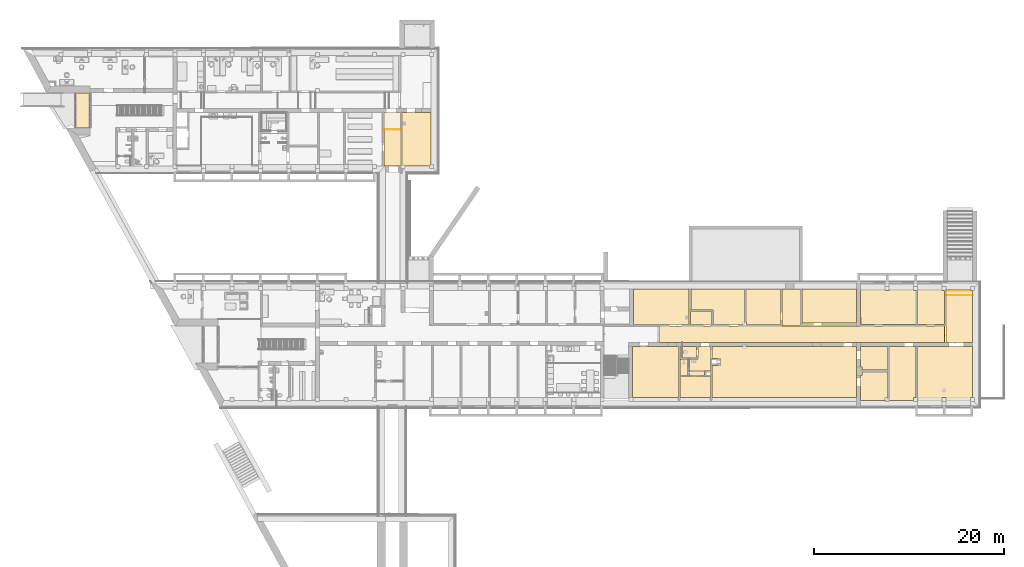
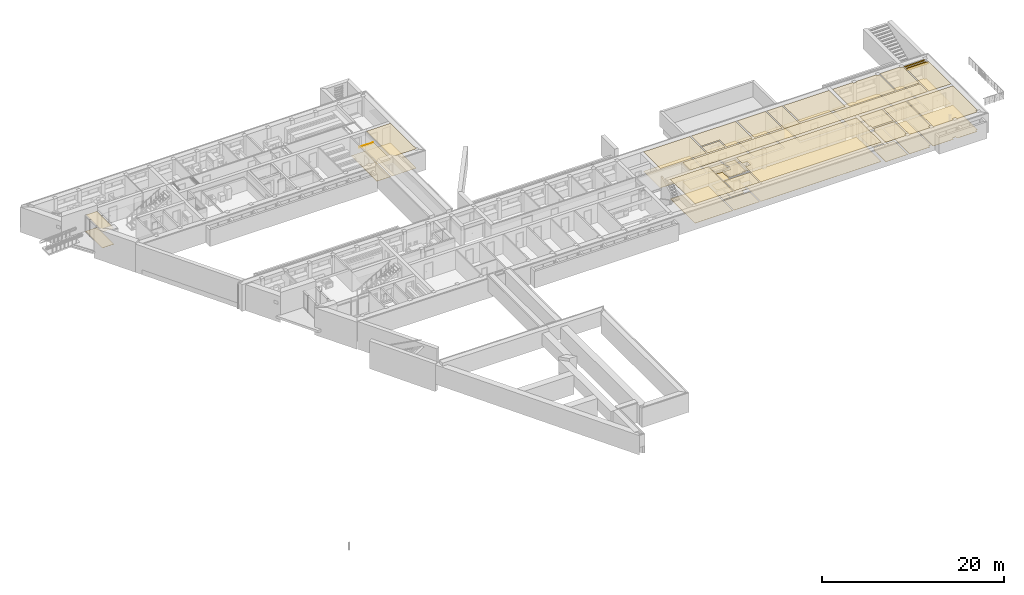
# One storey, part 70 of 127: 50 coverings.
"""IFC2X3 building model written with IfcOpenShell, lengths in millimetres."""

import ifcopenshell
import ifcopenshell.guid

model = None  # the IFC model being written
_history = None  # IfcOwnerHistory: only IFC2X3 demands one
_inside = {}  # id of a spatial element -> (the spatial element, [elements in it])
_under = {}  # id of a project, library or spatial element -> (it, [spatial elements below it])
_declared = {}  # id of a project -> (the project, [libraries it declares])
_typed = {}  # id of a type object -> (the type object, [elements of that type])
_made_of = {}  # id of a material, layer set ... -> (it, [elements and type objects made of it])


def new_model(schema):
    """Start an empty IFC model of exactly this schema.

    Asked for "IFC4X3", IfcOpenShell would pick the latest addendum, in which some entities
    have other attributes; the version numbers below select the first issue.
    IFC2X3 requires an IfcOwnerHistory on every rooted entity: one is made here for all.
    """
    global model, _history
    if schema == "IFC4X3":
        model = ifcopenshell.file(schema_version=(4, 3, 0, 0))
    else:
        model = ifcopenshell.file(schema=schema)
    _inside.clear()
    _under.clear()
    _declared.clear()
    _typed.clear()
    _made_of.clear()
    _history = None
    if model.schema == "IFC2X3":
        org = make("IfcOrganization", Name="unknown")
        user = make(
            "IfcPersonAndOrganization",
            ThePerson=make("IfcPerson", FamilyName="unknown"),
            TheOrganization=org,
        )
        app = make(
            "IfcApplication",
            ApplicationDeveloper=org,
            Version="unknown",
            ApplicationFullName="unknown",
            ApplicationIdentifier="unknown",
        )
        _history = make(
            "IfcOwnerHistory",
            OwningUser=user,
            OwningApplication=app,
            ChangeAction="ADDED",
            CreationDate=0,
        )
    return model


def make(cls, **values):
    """One entity of the class cls with the attributes given. An attribute that is None is left unset."""
    return model.create_entity(
        cls, **{name: value for name, value in values.items() if value is not None}
    )


def entity(cls, *values):
    """Any entity or typed value of the class cls, its attributes in the order of the schema. None: left unset."""
    e = model.create_entity(cls)
    for i, value in enumerate(values):
        if value is not None:
            e[i] = value
    return e


def rooted(cls, **values):
    """An entity with a GlobalId (a new one), such as an element, a storey or a relation."""
    return make(cls, GlobalId=ifcopenshell.guid.new(), OwnerHistory=_history, **values)


def si_unit(unit_type, name, prefix=None):
    """IfcSIUnit, for example si_unit("LENGTHUNIT", "METRE", prefix="MILLI")."""
    return make("IfcSIUnit", UnitType=unit_type, Prefix=prefix, Name=name)


def converted_unit(unit_type, name, factor, base, dimensions=None, offset=None):
    """IfcConversionBasedUnit, such as the inch: factor (a typed value) times the base unit."""
    return make(
        "IfcConversionBasedUnit"
        if offset is None
        else "IfcConversionBasedUnitWithOffset",
        ConversionOffset=offset,
        Dimensions=None
        if dimensions is None
        else entity("IfcDimensionalExponents", *dimensions),
        UnitType=unit_type,
        Name=name,
        ConversionFactor=make(
            "IfcMeasureWithUnit", ValueComponent=factor, UnitComponent=base
        ),
    )


def derived_unit(unit_type, elements):
    """IfcDerivedUnit: a product of units, each with its exponent."""
    return make(
        "IfcDerivedUnit",
        Elements=[
            make("IfcDerivedUnitElement", Unit=unit, Exponent=power)
            for unit, power in elements
        ],
        UnitType=unit_type,
    )


def money_unit(currency):
    """IfcMonetaryUnit."""
    return make("IfcMonetaryUnit", Currency=currency)


def assignment(units):
    """IfcUnitAssignment: the units of a project."""
    return None if units is None else make("IfcUnitAssignment", Units=units)


def point(xyz):
    """IfcCartesianPoint."""
    return None if xyz is None else make("IfcCartesianPoint", Coordinates=xyz)


def direction(xyz):
    """IfcDirection."""
    return None if xyz is None else make("IfcDirection", DirectionRatios=xyz)


def frame(location, z_axis=None, x_axis=None):
    """IfcAxis2Placement3D, a coordinate frame: its origin and axes. An axis left out is left unset."""
    return make(
        "IfcAxis2Placement3D",
        Location=point(location),
        Axis=direction(z_axis),
        RefDirection=direction(x_axis),
    )


def origin_with_axes():
    """The frame at (0, 0, 0) with the z axis (0, 0, 1) and the x axis (1, 0, 0) written out."""
    return frame((0.0, 0.0, 0.0), z_axis=(0.0, 0.0, 1.0), x_axis=(1.0, 0.0, 0.0))


def place(relative_to, where):
    """IfcLocalPlacement: puts the frame where relative to a parent placement (None: the world)."""
    return make(
        "IfcLocalPlacement", PlacementRelTo=relative_to, RelativePlacement=where
    )


def context(
    kind, dimensions, precision=None, world=None, true_north=None, identifier=None
):
    """IfcGeometricRepresentationContext, for example the 3D "Model" context."""
    return make(
        "IfcGeometricRepresentationContext",
        ContextIdentifier=identifier,
        ContextType=kind,
        CoordinateSpaceDimension=dimensions,
        Precision=precision,
        WorldCoordinateSystem=world,
        TrueNorth=true_north,
    )


def subcontext(parent, identifier, kind, view, scale=None):
    """IfcGeometricRepresentationSubContext, for example "Body" below "Model"."""
    return make(
        "IfcGeometricRepresentationSubContext",
        ContextIdentifier=identifier,
        ContextType=kind,
        ParentContext=parent,
        TargetScale=scale,
        TargetView=view,
    )


def project(units=None, contexts=None):
    """IfcProject with its units and contexts."""
    return rooted(
        "IfcProject",
        Name="project",
        RepresentationContexts=contexts,
        UnitsInContext=assignment(units),
    )


def spatial(cls, under=None, at=None, **own):
    """A site, building, storey or space (cls), placed at a placement, below another one or the project."""
    s = rooted(cls, ObjectPlacement=at, **own)
    if under is not None:
        _under.setdefault(under.id(), (under, []))[1].append(s)
    return s


def polyline(points):
    """IfcPolyline through the points."""
    return make("IfcPolyline", Points=[point(p) for p in points])


def outline(outer, holes=None, kind="AREA"):
    """IfcArbitraryClosedProfileDef: a profile drawn as a closed curve; with holes, ...WithVoids."""
    if holes is None:
        return make("IfcArbitraryClosedProfileDef", ProfileType=kind, OuterCurve=outer)
    return make(
        "IfcArbitraryProfileDefWithVoids",
        ProfileType=kind,
        OuterCurve=outer,
        InnerCurves=holes,
    )


def extrude(swept, where, along, depth):
    """IfcExtrudedAreaSolid: the profile swept, set in the frame where, extruded along a direction by depth."""
    return make(
        "IfcExtrudedAreaSolid",
        SweptArea=swept,
        Position=where,
        ExtrudedDirection=direction(along),
        Depth=depth,
    )


def shape(context_of_items, identifier, shape_type, items):
    """IfcShapeRepresentation: the items that make up one representation, for example the "Body"."""
    return make(
        "IfcShapeRepresentation",
        ContextOfItems=context_of_items,
        RepresentationIdentifier=identifier,
        RepresentationType=shape_type,
        Items=items,
    )


def material(Name=None, Category=None):
    """IfcMaterial."""
    return make("IfcMaterial", Name=Name, Category=Category)


def made_of(thing, what):
    """Note that an element or type object is made of a material, layer set ...; save() writes the relation."""
    if what is not None:
        _made_of.setdefault(what.id(), (what, []))[1].append(thing)
    return thing


def type_object(cls, material=None, **own):
    """A type object (cls), such as IfcWallType, which elements share."""
    return made_of(rooted(cls, **own), material)


def element(
    cls,
    number,
    at=None,
    inside=None,
    cuts=None,
    type_object=None,
    material=None,
    context=None,
    identifier="Body",
    shape_type=None,
    held_by="IfcProductDefinitionShape",
    body=None,
    shapes=None,
    **own,
):
    """One element of the class cls, such as IfcWall. Its Tag is "e" and its number.

    at: its placement. inside: the storey or other place that contains it. cuts: it is an
    opening in that element (IfcRelVoidsElement). A single representation is given by context,
    identifier, shape_type and body (its items); several are given by shapes. held_by: the class
    of the entity that holds the representations. save() writes the other relations.
    """
    e = rooted(cls, Tag="e%d" % number, ObjectPlacement=at, **own)
    if body is not None:
        shapes = [shape(context, identifier, shape_type, body)]
    if shapes is not None:
        e.Representation = make(held_by, Representations=shapes)
    if inside is not None:
        _inside.setdefault(inside.id(), (inside, []))[1].append(e)
    if cuts is not None:
        rooted(
            "IfcRelVoidsElement", RelatingBuildingElement=cuts, RelatedOpeningElement=e
        )
    if type_object is not None:
        _typed.setdefault(type_object.id(), (type_object, []))[1].append(e)
    return made_of(e, material)


def aggregate(whole, parts):
    """IfcRelAggregates: a whole, such as a stair, and the parts it consists of."""
    return rooted("IfcRelAggregates", RelatingObject=whole, RelatedObjects=parts)


def save(model, path):
    """Write the relations noted so far, then the file.

    IfcRelAggregates (storeys below a building ...), IfcRelContainedInSpatialStructure (elements
    in a storey), IfcRelDefinesByType, IfcRelAssociatesMaterial and IfcRelDeclares: one each for
    every whole, place, type object, material and project.
    """
    for whole, parts in _under.values():
        aggregate(whole, parts)
    for where, things in _inside.values():
        rooted(
            "IfcRelContainedInSpatialStructure",
            RelatedElements=things,
            RelatingStructure=where,
        )
    for kind, things in _typed.values():
        rooted("IfcRelDefinesByType", RelatedObjects=things, RelatingType=kind)
    for what, things in _made_of.values():
        rooted("IfcRelAssociatesMaterial", RelatedObjects=things, RelatingMaterial=what)
    for by, libraries in _declared.values():
        rooted("IfcRelDeclares", RelatingContext=by, RelatedDefinitions=libraries)
    model.write(path)


model = new_model("IFC2X3")

# Units and contexts
model_context = context("Model", 3, precision=1e-05, world=origin_with_axes(), true_north=direction((0.0, 1.0)))
body_context = subcontext(model_context, "Body", "Model", "MODEL_VIEW")
ifc_project = project(units=[si_unit("LENGTHUNIT", "METRE", prefix="MILLI"), si_unit("AREAUNIT", "SQUARE_METRE"), si_unit("VOLUMEUNIT", "CUBIC_METRE"), converted_unit("PLANEANGLEUNIT", "DEGREE", entity("IfcPlaneAngleMeasure", 0.0174532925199), si_unit("PLANEANGLEUNIT", "RADIAN"), dimensions=[0, 0, 0, 0, 0, 0, 0]), si_unit("SOLIDANGLEUNIT", "STERADIAN"), money_unit("EUR"), converted_unit("TIMEUNIT", "Year", entity("IfcTimeMeasure", 31556926.0), si_unit("TIMEUNIT", "SECOND"), dimensions=[0, 0, 1, 0, 0, 0, 0]), si_unit("MASSUNIT", "GRAM", prefix="KILO"), si_unit("THERMODYNAMICTEMPERATUREUNIT", "DEGREE_CELSIUS"), si_unit("LUMINOUSINTENSITYUNIT", "LUMEN"), si_unit("ENERGYUNIT", "JOULE", prefix="MEGA"), derived_unit("THERMALCONDUCTANCEUNIT", [(si_unit("POWERUNIT", "WATT"), 1), (si_unit("LENGTHUNIT", "METRE"), -1), (si_unit("THERMODYNAMICTEMPERATUREUNIT", "KELVIN"), -1)]), derived_unit("SPECIFICHEATCAPACITYUNIT", [(si_unit("ENERGYUNIT", "JOULE"), 1), (si_unit("MASSUNIT", "GRAM", prefix="KILO"), -1), (si_unit("THERMODYNAMICTEMPERATUREUNIT", "KELVIN"), -1)]), derived_unit("MASSDENSITYUNIT", [(si_unit("MASSUNIT", "GRAM", prefix="KILO"), 1), (si_unit("VOLUMEUNIT", "CUBIC_METRE"), -1)])], contexts=[model_context])

# Site, building, storey
site_placement = place(None, origin_with_axes())
site = spatial("IfcSite", under=ifc_project, at=site_placement, Name="Site", CompositionType="ELEMENT")
building_placement = place(site_placement, origin_with_axes())
building = spatial("IfcBuilding", under=site, at=building_placement, Name="Building", CompositionType="ELEMENT")
storey_placement = place(building_placement, origin_with_axes())
storey = spatial("IfcBuildingStorey", under=building, at=storey_placement, Name="1 KORRUS", CompositionType="ELEMENT", Elevation=0.0)

# Coverings
ifc_material_1 = material(Name="Värv")
covering_type_1 = type_object("IfcCoveringType", Name="L-3", PredefinedType="CLADDING")
covering_1_placement = place(storey_placement, frame((79851.5572649, 46606.3367071, 2600.0), z_axis=(0.0, 0.0, 1.0), x_axis=(1.0, 0.0, 0.0)))
element("IfcCovering", 1, at=covering_1_placement, inside=storey, type_object=covering_type_1, material=ifc_material_1, Name="Konstruktiivne lagi kaetud tolmutõkkega ja värvitud", PredefinedType="CLADDING", context=body_context, shape_type="SweptSolid", body=[
    extrude(outline(polyline([(0.0, 0.0), (-1.33153231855, -3885.11026317), (1953.37580002, -3885.11026317), (1953.34216436, 0.0), (0.0, 0.0)])), frame((0.0, 0.0, -1.0), z_axis=(0.0, 0.0, 1.0), x_axis=(1.0, 0.0, 0.0)), (0.0, 0.0, 1.0), 1.0),
])
covering_2_placement = place(storey_placement, frame((66953.8474773, 41003.0649281, 2600.0), z_axis=(0.0, 0.0, 1.0), x_axis=(1.0, 0.0, 0.0)))
element("IfcCovering", 2, at=covering_2_placement, inside=storey, type_object=covering_type_1, material=ifc_material_1, Name="Konstruktiivne lagi kaetud tolmutõkkega ja värvitud", PredefinedType="CLADDING", context=body_context, shape_type="SweptSolid", body=[
    extrude(outline(polyline([(0.0, 0.0), (30053.5378237, 0.0), (30053.5378237, 1718.1615163), (12897.709783, 1718.16151583), (12897.709783, 1703.44713842), (0.0, 1703.44713889), (0.0, 0.0)])), frame((0.0, 0.0, -1.0), z_axis=(0.0, 0.0, 1.0), x_axis=(1.0, 0.0, 0.0)), (0.0, 0.0, 1.0), 1.0),
])
covering_3_placement = place(storey_placement, frame((97157.3853009, 41003.0649281, 2600.0), z_axis=(0.0, 0.0, 1.0), x_axis=(1.0, 0.0, 0.0)))
element("IfcCovering", 3, at=covering_3_placement, inside=storey, type_object=covering_type_1, material=ifc_material_1, Name="Konstruktiivne lagi lauspahtel, värvitud", PredefinedType="CLADDING", context=body_context, shape_type="SweptSolid", body=[
    extrude(outline(polyline([(0.0, 0.0), (2789.96748376, 0.0), (2789.96748376, 4934.54919473), (0.0, 4934.54919473), (0.0, 0.0)])), frame((0.0, 0.0, -1.0), z_axis=(0.0, 0.0, 1.0), x_axis=(1.0, 0.0, 0.0)), (0.0, 0.0, 1.0), 1.0),
])
covering_4_placement = place(storey_placement, frame((72477.5755855, 35181.6514797, 2600.0), z_axis=(0.0, 0.0, 1.0), x_axis=(1.0, 0.0, 0.0)))
element("IfcCovering", 4, at=covering_4_placement, inside=storey, type_object=covering_type_1, material=ifc_material_1, Name="Konstruktiivne lagi lauspahtel, värvitud", PredefinedType="CLADDING", context=body_context, shape_type="SweptSolid", body=[
    extrude(outline(polyline([(0.0, 0.0), (15260.6712947, 1.03918294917), (15256.8423619, 2356.81436682), (15259.8446509, 2357.16060745), (15257.2024337, 5398.49640011), (0.0, 5398.49640011), (0.0, 4120.08583852), (679.777099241, 4120.08583852), (679.777099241, 3400.08581245), (0.0, 3400.08581245), (0.0, 0.0)])), frame((0.0, 0.0, -1.0), z_axis=(0.0, 0.0, 1.0), x_axis=(1.0, 0.0, 0.0)), (0.0, 0.0, 1.0), 1.0),
])
covering_5_placement = place(storey_placement, frame((94157.1430771, 40583.0649281, 2600.0), z_axis=(0.0, 0.0, 1.0), x_axis=(1.0, 0.0, 0.0)))
element("IfcCovering", 5, at=covering_5_placement, inside=storey, type_object=covering_type_1, material=ifc_material_1, Name="Konstruktiivne lagi lauspahtel, värvitud", PredefinedType="CLADDING", context=body_context, shape_type="SweptSolid", body=[
    extrude(outline(polyline([(0.0, 0.0), (0.0, -5690.96849499), (2579.99999402, -5690.79281372), (2580.20970755, -5401.4406583), (3000.20970755, -5401.4406583), (3000.70847824, -5690.7641662), (5580.70847226, -5690.58848493), (5580.20970755, -5401.4406583), (5781.50498031, -5401.22264278), (5781.04458417, 0.0), (0.0, 0.0)])), frame((0.0, 0.0, -1.0), z_axis=(0.0, 0.0, 1.0), x_axis=(1.0, 0.0, 0.0)), (0.0, 0.0, 1.0), 1.0),
])
covering_6_placement = place(storey_placement, frame((96737.3527847, 46471.7424563, 2600.0), z_axis=(0.0, 0.0, 1.0), x_axis=(1.0, 0.0, 0.0)))
element("IfcCovering", 6, at=covering_6_placement, inside=storey, type_object=covering_type_1, material=ifc_material_1, Name="Konstruktiivne lagi lauspahtel, värvitud", PredefinedType="CLADDING", context=body_context, shape_type="SweptSolid", body=[
    extrude(outline(polyline([(0.0, 0.0), (0.125872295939, 130.821504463), (-2587.67677211, 131.465226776), (-2583.6054976, -3600.51601235), (270.03249553, -3600.51601235), (270.05238304, -0.019874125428), (0.0, 0.0)])), frame((0.0, 0.0, -1.0), z_axis=(0.0, 0.0, 1.0), x_axis=(1.0, 0.0, 0.0)), (0.0, 0.0, 1.0), 1.0),
])
covering_7_placement = place(storey_placement, frame((94012.8664465, 46471.0851707, 2600.0), z_axis=(0.0, 0.0, 1.0), x_axis=(1.0, 0.0, 0.0)))
element("IfcCovering", 7, at=covering_7_placement, inside=storey, type_object=covering_type_1, material=ifc_material_1, Name="Konstruktiivne lagi lauspahtel, värvitud", PredefinedType="CLADDING", context=body_context, shape_type="SweptSolid", body=[
    extrude(outline(polyline([(0.0, 0.0), (-262.467273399, 0.657285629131), (-260.097907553, 132.22448944), (-2840.09782773, 132.866270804), (-2842.4672734, 0.657285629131), (-3262.4672734, 0.657285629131), (-3260.31205932, 132.970800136), (-5852.3777353, 133.615572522), (-5847.83153481, -3599.85872672), (3.92714900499, -3599.85872672), (0.0, 0.0)])), frame((0.0, 0.0, -1.0), z_axis=(0.0, 0.0, 1.0), x_axis=(1.0, 0.0, 0.0)), (0.0, 0.0, 1.0), 1.0),
])
covering_type_2 = type_object("IfcCoveringType", Name="L-5", PredefinedType="CLADDING")
covering_8_placement = place(storey_placement, frame((88297.4202954, 37538.8122334, 2600.0), z_axis=(0.0, 0.0, 1.0), x_axis=(1.0, 0.0, 0.0)))
element("IfcCovering", 8, at=covering_8_placement, inside=storey, type_object=covering_type_2, material=ifc_material_1, Name="Konstruktiivne lagi kaetud tolmutõkkega ja värvitud", PredefinedType="CLADDING", context=body_context, shape_type="SweptSolid", body=[
    extrude(outline(polyline([(0.0, 0.0), (-143.00236282, 0.0), (-138.699929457, -2647.124254), (2442.16396742, -2646.9485139), (2439.93248925, -2357.18796361), (2659.93248925, -2357.18796361), (2659.93248752, 328.81048313), (0.0, 328.81048313), (0.0, 0.0)])), frame((0.0, 0.0, -1.0), z_axis=(0.0, 0.0, 1.0), x_axis=(1.0, 0.0, 0.0)), (0.0, 0.0, 1.0), 1.0),
])
covering_9_placement = place(storey_placement, frame((69117.372148, 35180.1739363, 2600.0), z_axis=(0.0, 0.0, 1.0), x_axis=(1.0, 0.0, 0.0)))
element("IfcCovering", 9, at=covering_9_placement, inside=storey, type_object=covering_type_2, material=ifc_material_1, Name="Konstruktiivne lagi kaetud tolmutõkkega ja värvitud", PredefinedType="CLADDING", context=body_context, shape_type="SweptSolid", body=[
    extrude(outline(polyline([(0.0, 0.0), (3210.20343751, 0.0), (3210.20343751, 2203.89098953), (0.0, 2203.89098953), (0.0, 0.0)])), frame((0.0, 0.0, -1.0), z_axis=(0.0, 0.0, 1.0), x_axis=(1.0, 0.0, 0.0)), (0.0, 0.0, 1.0), 1.0),
])
covering_10_placement = place(storey_placement, frame((64240.2205002, 42906.5010026, 2600.0), z_axis=(0.0, 0.0, 1.0), x_axis=(1.0, 0.0, 0.0)))
element("IfcCovering", 10, at=covering_10_placement, inside=storey, type_object=covering_type_2, material=ifc_material_1, Name="Konstruktiivne lagi kaetud tolmutõkkega ja värvitud", PredefinedType="CLADDING", context=body_context, shape_type="SweptSolid", body=[
    extrude(outline(polyline([(0.0, 0.0), (5842.86980913, 0.0), (5842.86980913, 3704.14673159), (0.0, 3704.14673159), (0.0, 0.0)])), frame((0.0, 0.0, -1.0), z_axis=(0.0, 0.0, 1.0), x_axis=(1.0, 0.0, 0.0)), (0.0, 0.0, 1.0), 1.0),
])
covering_11_placement = place(storey_placement, frame((39883.2475145, 65216.3690561, 2600.0), z_axis=(0.0, 0.0, 1.0), x_axis=(1.0, 0.0, 0.0)))
element("IfcCovering", 11, at=covering_11_placement, inside=storey, type_object=covering_type_2, material=ifc_material_1, Name="Konstruktiivne lagi kaetud tolmutõkkega ja värvitud", PredefinedType="CLADDING", context=body_context, shape_type="SweptSolid", body=[
    extrude(outline(polyline([(0.0, 0.0), (0.0, -5636.88866665), (3054.50870136, -5636.88866665), (3054.49123014, 0.0), (0.0, 0.0)])), frame((0.0, 0.0, -1.0), z_axis=(0.0, 0.0, 1.0), x_axis=(1.0, 0.0, 0.0)), (0.0, 0.0, 1.0), 1.0),
])
covering_12_placement = place(storey_placement, frame((68966.1761605, 40587.4975598, 2600.0), z_axis=(0.0, 0.0, 1.0), x_axis=(1.0, 0.0, 0.0)))
element("IfcCovering", 12, at=covering_12_placement, inside=storey, type_object=covering_type_2, material=ifc_material_1, Name="Konstruktiivne lagi kaetud tolmutõkkega ja värvitud", PredefinedType="CLADDING", context=body_context, shape_type="SweptSolid", body=[
    extrude(outline(polyline([(0.0, 0.0), (-4825.40647222, 0.0), (-4817.37331761, -5405.87387222), (1.19558049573, -5405.54574131), (0.0, 0.0)])), frame((0.0, 0.0, -1.0), z_axis=(0.0, 0.0, 1.0), x_axis=(1.0, 0.0, 0.0)), (0.0, 0.0, 1.0), 1.0),
])
covering_13_placement = place(storey_placement, frame((90957.3527847, 40583.0649281, 2600.0), z_axis=(0.0, 0.0, 1.0), x_axis=(1.0, 0.0, 0.0)))
element("IfcCovering", 13, at=covering_13_placement, inside=storey, type_object=covering_type_2, material=ifc_material_1, Name="Konstruktiivne lagi kaetud tolmutõkkega ja värvitud", PredefinedType="CLADDING", context=body_context, shape_type="SweptSolid", body=[
    extrude(outline(polyline([(0.0, 0.0), (-2802.57799426, 0.0), (-2799.93249786, -2172.54830272), (-2659.93249276, -2172.46303565), (-2659.93249276, -2515.44221156), (0.0, -2515.44221156), (0.0, 0.0)])), frame((0.0, 0.0, -1.0), z_axis=(0.0, 0.0, 1.0), x_axis=(1.0, 0.0, 0.0)), (0.0, 0.0, 1.0), 1.0),
])
covering_14_placement = place(storey_placement, frame((91157.3527847, 40583.0649281, 2600.0), z_axis=(0.0, 0.0, 1.0), x_axis=(1.0, 0.0, 0.0)))
element("IfcCovering", 14, at=covering_14_placement, inside=storey, type_object=covering_type_2, material=ifc_material_1, Name="Konstruktiivne lagi kaetud tolmutõkkega ja värvitud", PredefinedType="CLADDING", context=body_context, shape_type="SweptSolid", body=[
    extrude(outline(polyline([(0.0, 0.0), (0.0, -5690.9634268), (2579.60006631, -5690.9634268), (2579.99998296, -5401.44062542), (2850.00001306, -5403.540208), (2850.00001306, 0.616100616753), (0.0, 0.0)])), frame((0.0, 0.0, -1.0), z_axis=(0.0, 0.0, 1.0), x_axis=(1.0, 0.0, 0.0)), (0.0, 0.0, 1.0), 1.0),
])
covering_15_placement = place(storey_placement, frame((87727.441884, 46604.8052023, 2600.0), z_axis=(0.0, 0.0, 1.0), x_axis=(1.0, 0.0, 0.0)))
element("IfcCovering", 15, at=covering_15_placement, inside=storey, type_object=covering_type_2, material=ifc_material_1, Name="Konstruktiivne lagi kaetud tolmutõkkega ja värvitud", PredefinedType="CLADDING", context=body_context, shape_type="SweptSolid", body=[
    extrude(outline(polyline([(0.0, 0.0), (-5772.50879453, 1.43593701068), (-5772.50879453, -3583.57875831), (4.36367837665, -3583.57875831), (0.0, 0.0)])), frame((0.0, 0.0, -1.0), z_axis=(0.0, 0.0, 1.0), x_axis=(1.0, 0.0, 0.0)), (0.0, 0.0, 1.0), 1.0),
])
covering_16_placement = place(storey_placement, frame((76100.2206895, 43126.0014734, 2600.0), z_axis=(0.0, 0.0, 1.0), x_axis=(1.0, 0.0, 0.0)))
element("IfcCovering", 16, at=covering_16_placement, inside=storey, type_object=covering_type_2, material=ifc_material_1, Name="Konstruktiivne lagi kaetud tolmutõkkega ja värvitud", PredefinedType="CLADDING", context=body_context, shape_type="SweptSolid", body=[
    extrude(outline(polyline([(0.0, 0.0), (57.1320951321, -9.99716576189e-06), (57.1320813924, -219.489406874), (3599.99999388, -219.489406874), (3599.99999388, 3481.69605639), (0.0, 3481.69605639), (0.0, 0.0)])), frame((0.0, 0.0, -1.0), z_axis=(0.0, 0.0, 1.0), x_axis=(1.0, 0.0, 0.0)), (0.0, 0.0, 1.0), 1.0),
])
covering_17_placement = place(storey_placement, frame((70280.1781068, 46609.1453172, 2600.0), z_axis=(0.0, 0.0, 1.0), x_axis=(1.0, 0.0, 0.0)))
element("IfcCovering", 17, at=covering_17_placement, inside=storey, type_object=covering_type_2, material=ifc_material_1, Name="Konstruktiivne lagi kaetud tolmutõkkega ja värvitud", PredefinedType="CLADDING", context=body_context, shape_type="SweptSolid", body=[
    extrude(outline(polyline([(0.0, 0.0), (2.59124522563, -2216.53694603), (2313.44618441, -2213.72302221), (2313.44618441, -3702.63325069), (5620.04258275, -3702.63325069), (5620.04258275, -1.39804303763), (0.0, 0.0)])), frame((0.0, 0.0, -1.0), z_axis=(0.0, 0.0, 1.0), x_axis=(1.0, 0.0, 0.0)), (0.0, 0.0, 1.0), 1.0),
])
covering_18_placement = place(storey_placement, frame((70233.0903094, 42906.5120665, 2600.0), z_axis=(0.0, 0.0, 1.0), x_axis=(1.0, 0.0, 0.0)))
element("IfcCovering", 18, at=covering_18_placement, inside=storey, type_object=covering_type_2, material=ifc_material_1, Name="Konstruktiivne lagi kaetud tolmutõkkega ja värvitud", PredefinedType="CLADDING", context=body_context, shape_type="SweptSolid", body=[
    extrude(outline(polyline([(0.0, 0.0), (2210.53396077, 0.0), (2210.53396077, 1336.0357135), (0.0, 1336.0357135), (0.0, 0.0)])), frame((0.0, 0.0, -1.0), z_axis=(0.0, 0.0, 1.0), x_axis=(1.0, 0.0, 0.0)), (0.0, 0.0, 1.0), 1.0),
])
covering_19_placement = place(storey_placement, frame((5488.69931489, 63590.1449493, 2170.0), z_axis=(0.0, 0.0, 1.0), x_axis=(1.0, 0.0, 0.0)))
element("IfcCovering", 19, at=covering_19_placement, inside=storey, type_object=covering_type_2, material=ifc_material_1, Name="Konstruktiivne lagi kaetud tolmutõkkega ja värvitud", PredefinedType="CLADDING", context=body_context, shape_type="SweptSolid", body=[
    extrude(outline(polyline([(0.0, 0.0), (1459.07577476, 0.0), (1459.07577476, 3686.6080572), (0.0, 3686.6080572), (0.0, 0.0)])), frame((0.0, 0.0, -1.0), z_axis=(0.0, 0.0, 1.0), x_axis=(1.0, 0.0, 0.0)), (0.0, 0.0, 1.0), 1.0),
])
ifc_material_2 = material(Name="Betoon - Ol.Olev konstruktsioon")
covering_type_3 = type_object("IfcCoveringType", Name="P-3", PredefinedType="NOTDEFINED")
covering_20_placement = place(storey_placement, frame((70233.0903094, 42906.5120665, 0.0), z_axis=(0.0, 0.0, 1.0), x_axis=(1.0, 0.0, 0.0)))
element("IfcCovering", 20, at=covering_20_placement, inside=storey, type_object=covering_type_3, material=ifc_material_2, Name="Betoon - Ol.Olev konstruktsioon", PredefinedType="NOTDEFINED", context=body_context, shape_type="SweptSolid", body=[
    extrude(outline(polyline([(0.0, 0.0), (2210.53396077, 0.0), (2210.53396077, 1336.0357135), (0.0, 1336.0357135), (0.0, 0.0)])), frame((0.0, 0.0, -20.0), z_axis=(0.0, 0.0, 1.0), x_axis=(1.0, 0.0, 0.0)), (0.0, 0.0, 1.0), 20.0),
])
covering_21_placement = place(storey_placement, frame((90957.3527847, 40583.0649281, 0.0), z_axis=(0.0, 0.0, 1.0), x_axis=(1.0, 0.0, 0.0)))
element("IfcCovering", 21, at=covering_21_placement, inside=storey, type_object=covering_type_3, material=ifc_material_2, Name="Betoon - Ol.Olev konstruktsioon", PredefinedType="NOTDEFINED", context=body_context, shape_type="SweptSolid", body=[
    extrude(outline(polyline([(0.0, 0.0), (-2802.57799426, 0.0), (-2799.93249786, -2172.54830271), (-2659.93249276, -2172.46303565), (-2659.93249276, -2515.44221156), (0.0, -2515.44221156), (0.0, 0.0)])), frame((0.0, 0.0, -20.0), z_axis=(0.0, 0.0, 1.0), x_axis=(1.0, 0.0, 0.0)), (0.0, 0.0, 1.0), 20.0),
])
covering_22_placement = place(storey_placement, frame((88154.4179326, 37538.8122334, 0.0), z_axis=(0.0, 0.0, 1.0), x_axis=(1.0, 0.0, 0.0)))
element("IfcCovering", 22, at=covering_22_placement, inside=storey, type_object=covering_type_3, material=ifc_material_2, Name="Betoon - Ol.Olev konstruktsioon", PredefinedType="NOTDEFINED", context=body_context, shape_type="SweptSolid", body=[
    extrude(outline(polyline([(0.0, 0.0), (4.30243336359, -2647.124254), (2802.93485034, -2646.93370386), (2802.93485034, 328.81048313), (143.00236282, 328.81048313), (143.00236282, 0.0), (0.0, 0.0)])), frame((0.0, 0.0, -20.0), z_axis=(0.0, 0.0, 1.0), x_axis=(1.0, 0.0, 0.0)), (0.0, 0.0, 1.0), 20.0),
])
covering_23_placement = place(storey_placement, frame((64140.7763118, 40583.0402955, 0.0), z_axis=(0.0, 0.0, 1.0), x_axis=(1.0, 0.0, 0.0)))
element("IfcCovering", 23, at=covering_23_placement, inside=storey, type_object=covering_type_3, material=ifc_material_2, Name="Betoon - Ol.Olev konstruktsioon", PredefinedType="NOTDEFINED", context=body_context, shape_type="SweptSolid", body=[
    extrude(outline(polyline([(0.0, 0.0), (8.02653109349, -5401.41660791), (4826.59539653, -5401.08846354), (4825.40079775, 0.0), (0.0, 0.0)])), frame((0.0, 0.0, -20.0), z_axis=(0.0, 0.0, 1.0), x_axis=(1.0, 0.0, 0.0)), (0.0, 0.0, 1.0), 20.0),
])
covering_24_placement = place(storey_placement, frame((91157.3527847, 40583.0649281, 0.0), z_axis=(0.0, 0.0, 1.0), x_axis=(1.0, 0.0, 0.0)))
element("IfcCovering", 24, at=covering_24_placement, inside=storey, type_object=covering_type_3, material=ifc_material_2, Name="Betoon - Ol.Olev konstruktsioon", PredefinedType="NOTDEFINED", context=body_context, shape_type="SweptSolid", body=[
    extrude(outline(polyline([(0.0, 0.0), (0.0, -5690.9634268), (2579.60008324, -5690.9634268), (2580.00000968, -5401.44059794), (2850.00005112, -5403.54021176), (2850.00005112, -0.000848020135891), (0.0, 0.0)])), frame((0.0, 0.0, -20.0), z_axis=(0.0, 0.0, 1.0), x_axis=(1.0, 0.0, 0.0)), (0.0, 0.0, 1.0), 20.0),
])
covering_25_placement = place(storey_placement, frame((70280.1781068, 46609.1453172, 0.0), z_axis=(0.0, 0.0, 1.0), x_axis=(1.0, 0.0, 0.0)))
element("IfcCovering", 25, at=covering_25_placement, inside=storey, type_object=covering_type_3, material=ifc_material_2, Name="Betoon - Ol.Olev konstruktsioon", PredefinedType="NOTDEFINED", context=body_context, shape_type="SweptSolid", body=[
    extrude(outline(polyline([(0.0, 0.0), (2.59124522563, -2216.53694603), (2313.44618441, -2213.72302221), (2313.44618441, -3702.63325069), (5620.04258275, -3702.63325069), (5620.04258275, -1.3980430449), (0.0, 0.0)])), frame((0.0, 0.0, -20.0), z_axis=(0.0, 0.0, 1.0), x_axis=(1.0, 0.0, 0.0)), (0.0, 0.0, 1.0), 20.0),
])
covering_26_placement = place(storey_placement, frame((79700.2206834, 46607.6975298, 0.0), z_axis=(0.0, 0.0, 1.0), x_axis=(1.0, 0.0, 0.0)))
element("IfcCovering", 26, at=covering_26_placement, inside=storey, type_object=covering_type_3, material=ifc_material_2, Name="Betoon - Ol.Olev konstruktsioon", PredefinedType="NOTDEFINED", context=body_context, shape_type="SweptSolid", body=[
    extrude(outline(polyline([(0.0, 0.0), (-3599.99999388, 0.0), (-3599.99999388, -3481.69605639), (-3542.86791249, -3481.69605639), (-3542.86791249, -3701.18546327), (0.0, -3701.18546327), (0.0, 0.0)])), frame((0.0, 0.0, -20.0), z_axis=(0.0, 0.0, 1.0), x_axis=(1.0, 0.0, 0.0)), (0.0, 0.0, 1.0), 20.0),
])
covering_27_placement = place(storey_placement, frame((81954.9330895, 46606.2411393, 0.0), z_axis=(0.0, 0.0, 1.0), x_axis=(1.0, 0.0, 0.0)))
element("IfcCovering", 27, at=covering_27_placement, inside=storey, type_object=covering_type_3, material=ifc_material_2, Name="Betoon - Ol.Olev konstruktsioon", PredefinedType="NOTDEFINED", context=body_context, shape_type="SweptSolid", body=[
    extrude(outline(polyline([(0.0, 0.0), (0.0, -3585.01469532), (5776.8724729, -3585.01469532), (5772.50879453, -1.43593701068), (0.0, 0.0)])), frame((0.0, 0.0, -20.0), z_axis=(0.0, 0.0, 1.0), x_axis=(1.0, 0.0, 0.0)), (0.0, 0.0, 1.0), 20.0),
])
covering_28_placement = place(storey_placement, frame((72477.5755855, 35181.6514797, 0.0), z_axis=(0.0, 0.0, 1.0), x_axis=(1.0, 0.0, 0.0)))
element("IfcCovering", 28, at=covering_28_placement, inside=storey, type_object=covering_type_3, material=ifc_material_2, Name="Betoon - Ol.Olev konstruktsioon", PredefinedType="NOTDEFINED", context=body_context, shape_type="SweptSolid", body=[
    extrude(outline(polyline([(0.0, 0.0), (15260.6712947, 1.03918294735), (15256.8423619, 2356.81436682), (15259.8446509, 2357.16060746), (15257.1987454, 5401.41339678), (0.0, 5401.41339678), (0.0, 4120.08583852), (920.000097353, 4120.08583852), (920.000097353, 3400.08581244), (0.0, 3400.08581244), (0.0, 0.0)])), frame((0.0, 0.0, -20.0), z_axis=(0.0, 0.0, 1.0), x_axis=(1.0, 0.0, 0.0)), (0.0, 0.0, 1.0), 20.0),
])
ifc_material_3 = material(Name="Kipsplaat")
covering_type_4 = type_object("IfcCoveringType", Name="L-2", PredefinedType="CEILING")
covering_29_placement = place(storey_placement, frame((70884.6509864, 40583.0649281, 2300.0), z_axis=(0.0, 0.0, 1.0), x_axis=(1.0, 0.0, 0.0)))
element("IfcCovering", 29, at=covering_29_placement, inside=storey, type_object=covering_type_4, material=ifc_material_3, Name="Kahekordne niiskuskindlast kipsplaadist ripplag", PredefinedType="CEILING", context=body_context, shape_type="SweptSolid", body=[
    extrude(outline(polyline([(0.0, 0.0), (-1768.47385563, 0.0), (-1768.21751698, -1159.00000261), (0.0, -1159.00000261), (0.0, 0.0)])), origin_with_axes(), (0.0, 0.0, 1.0), 26.0),
])
covering_30_placement = place(storey_placement, frame((69999.2702862, 39274.0649255, 2300.0), z_axis=(0.0, 0.0, 1.0), x_axis=(1.0, 0.0, 0.0)))
element("IfcCovering", 30, at=covering_30_placement, inside=storey, type_object=covering_type_4, material=ifc_material_3, Name="Kahekordne niiskuskindlast kipsplaadist ripplag", PredefinedType="CEILING", context=body_context, shape_type="SweptSolid", body=[
    extrude(outline(polyline([(0.0, 0.0), (-882.803631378, 0.0), (-882.418781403, -1739.99999934), (0.0, -1739.99999934), (0.0, 0.0)])), origin_with_axes(), (0.0, 0.0, 1.0), 26.0),
])
covering_31_placement = place(storey_placement, frame((70099.2702894, 39274.0649295, 2300.0), z_axis=(0.0, 0.0, 1.0), x_axis=(1.0, 0.0, 0.0)))
element("IfcCovering", 31, at=covering_31_placement, inside=storey, type_object=covering_type_4, material=ifc_material_3, Name="Kahekordne niiskuskindlast kipsplaadist ripplag", PredefinedType="CEILING", context=body_context, shape_type="SweptSolid", body=[
    extrude(outline(polyline([(0.0, 0.0), (0.0, -1290.10108588), (2228.30528383, -1290.10108588), (2228.30528383, 1308.99999863), (935.380689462, 1308.99999863), (935.380689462, 0.0), (0.0, 0.0)])), origin_with_axes(), (0.0, 0.0, 1.0), 26.0),
])
covering_32_placement = place(storey_placement, frame((70099.2702894, 37534.064926, 2050.0), z_axis=(0.0, 0.0, 1.0), x_axis=(1.0, 0.0, 0.0)))
element("IfcCovering", 32, at=covering_32_placement, inside=storey, type_object=covering_type_4, material=ifc_material_3, Name="Kahekordne niiskuskindlast kipsplaadist ripplag", PredefinedType="CEILING", context=body_context, shape_type="SweptSolid", body=[
    extrude(outline(polyline([(0.0, 0.0), (1638.02507534, 0.0), (1638.02507534, 449.898917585), (0.0, 449.898917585), (0.0, 0.0)])), origin_with_axes(), (0.0, 0.0, 1.0), 29.1456236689),
])
covering_type_5 = type_object("IfcCoveringType", Name="L-4", PredefinedType="CEILING")
covering_33_placement = place(storey_placement, frame((37943.462216, 59589.1279075, 2250.0), z_axis=(0.0, 0.0, 1.0), x_axis=(1.0, 0.0, 0.0)))
element("IfcCovering", 33, at=covering_33_placement, inside=storey, type_object=covering_type_5, material=ifc_material_3, Name="Ripplagi", PredefinedType="CEILING", context=body_context, shape_type="SweptSolid", body=[
    extrude(outline(polyline([(0.0, 0.0), (1789.78529853, 0.0), (1789.78529853, 3825.74719499), (0.0, 3825.74719499), (0.0, 0.0)])), origin_with_axes(), (0.0, 0.0, 1.0), 15.0),
])
covering_type_6 = type_object("IfcCoveringType", Name="P-5", PredefinedType="NOTDEFINED")
covering_34_placement = place(storey_placement, frame((70884.6509864, 40588.5396931, 0.0), z_axis=(0.0, 0.0, 1.0), x_axis=(1.0, 0.0, 0.0)))
element("IfcCovering", 34, at=covering_34_placement, inside=storey, type_object=covering_type_6, material=ifc_material_2, Name="Betoon - Ol.Olev konstruktsioon", PredefinedType="NOTDEFINED", context=body_context, shape_type="SweptSolid", body=[
    extrude(outline(polyline([(0.0, 0.0), (-1509.33410044, 0.0), (-1509.07653689, -1164.47476755), (0.0, -1164.47476755), (0.0, 0.0)])), frame((0.0, 0.0, -20.0), z_axis=(0.0, 0.0, 1.0), x_axis=(1.0, 0.0, 0.0)), (0.0, 0.0, 1.0), 20.0),
])
covering_35_placement = place(storey_placement, frame((69116.4666718, 39274.0649397, 0.0), z_axis=(0.0, 0.0, 1.0), x_axis=(1.0, 0.0, 0.0)))
element("IfcCovering", 35, at=covering_35_placement, inside=storey, type_object=covering_type_6, material=ifc_material_2, Name="Betoon - Ol.Olev konstruktsioon", PredefinedType="NOTDEFINED", context=body_context, shape_type="SweptSolid", body=[
    extrude(outline(polyline([(0.0, 0.0), (0.384849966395, -1739.99996297), (882.803664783, -1739.99996297), (882.803664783, 0.0), (0.0, 0.0)])), frame((0.0, 0.0, -20.0), z_axis=(0.0, 0.0, 1.0), x_axis=(1.0, 0.0, 0.0)), (0.0, 0.0, 1.0), 20.0),
])
covering_36_placement = place(storey_placement, frame((70117.5755872, 39274.0649312, 0.0), z_axis=(0.0, 0.0, 1.0), x_axis=(1.0, 0.0, 0.0)))
element("IfcCovering", 36, at=covering_36_placement, inside=storey, type_object=covering_type_6, material=ifc_material_2, Name="Betoon - Ol.Olev konstruktsioon", PredefinedType="NOTDEFINED", context=body_context, shape_type="SweptSolid", body=[
    extrude(outline(polyline([(0.0, 0.0), (0.0, -1739.94625731), (1619.71977758, -1739.98567407), (1619.71977758, -1290.10108373), (2210.00001542, -1290.10108373), (2210.00001542, 1308.9999969), (917.075364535, 1308.9999969), (917.075364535, 0.0), (0.0, 0.0)])), frame((0.0, 0.0, -20.0), z_axis=(0.0, 0.0, 1.0), x_axis=(1.0, 0.0, 0.0)), (0.0, 0.0, 1.0), 20.0),
])
covering_type_7 = type_object("IfcCoveringType", Name="P-6", PredefinedType="NOTDEFINED")
covering_37_placement = place(storey_placement, frame((5478.05705418, 63593.0377635, 0.0), z_axis=(0.0, 0.0, 1.0), x_axis=(1.0, 0.0, 0.0)))
element("IfcCovering", 37, at=covering_37_placement, inside=storey, type_object=covering_type_7, material=ifc_material_2, Name="Betoon - Ol.Olev konstruktsioon", PredefinedType="NOTDEFINED", context=body_context, shape_type="SweptSolid", body=[
    extrude(outline(polyline([(0.0, 0.0), (102.563101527, 0.367932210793), (102.563101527, -2.87309338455), (1468.70875022, -1.93518796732), (1468.70875022, 3683.71524301), (-4.48558633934, 3683.71524301), (0.0, 0.0)])), frame((0.0, 0.0, -20.0), z_axis=(0.0, 0.0, 1.0), x_axis=(1.0, 0.0, 0.0)), (0.0, 0.0, 1.0), 20.0),
])
covering_38_placement = place(storey_placement, frame((97162.9202642, 46252.4945034, 0.0), z_axis=(0.0, 0.0, 1.0), x_axis=(1.0, 0.0, 0.0)))
element("IfcCovering", 38, at=covering_38_placement, inside=storey, type_object=covering_type_7, material=ifc_material_2, Name="Betoon - Ol.Olev konstruktsioon", PredefinedType="NOTDEFINED", context=body_context, shape_type="SweptSolid", body=[
    extrude(outline(polyline([(0.0, -5249.42957527), (2775.70081742, -5249.42957527), (2784.43249585, 219.247927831), (2574.43249438, 219.247927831), (2577.65870466, 349.322426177), (0.0259281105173, 349.963621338), (0.0, -5249.42957527)])), frame((0.0, 0.0, -20.0), z_axis=(0.0, 0.0, 1.0), x_axis=(1.0, 0.0, 0.0)), (0.0, 0.0, 1.0), 20.0),
])
covering_type_8 = type_object("IfcCoveringType", Name="P-2", PredefinedType="NOTDEFINED")
covering_39_placement = place(storey_placement, frame((96737.4786326, 46602.5639869, 0.0), z_axis=(0.0, 0.0, 1.0), x_axis=(1.0, 0.0, 0.0)))
element("IfcCovering", 39, at=covering_39_placement, inside=storey, type_object=covering_type_8, material=ifc_material_2, Name="Betoon - Ol.Olev konstruktsioon", PredefinedType="NOTDEFINED", context=body_context, shape_type="SweptSolid", body=[
    extrude(outline(polyline([(0.0, 0.0), (-2587.80262004, 0.643696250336), (-2583.73134553, -3731.33754287), (269.906647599, -3731.33754287), (269.926556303, -130.841397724), (-0.125847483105, -130.821544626), (0.0, 0.0)])), frame((0.0, 0.0, -20.0), z_axis=(0.0, 0.0, 1.0), x_axis=(1.0, 0.0, 0.0)), (0.0, 0.0, 1.0), 20.0),
])
covering_40_placement = place(storey_placement, frame((88147.4423228, 46604.7007432, 0.0), z_axis=(0.0, 0.0, 1.0), x_axis=(1.0, 0.0, 0.0)))
element("IfcCovering", 40, at=covering_40_placement, inside=storey, type_object=covering_type_8, material=ifc_material_2, Name="Betoon - Ol.Olev konstruktsioon", PredefinedType="NOTDEFINED", context=body_context, shape_type="SweptSolid", body=[
    extrude(outline(polyline([(0.0, 0.0), (4.54620048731, -3733.47429924), (5856.3048843, -3733.47429924), (5852.37774759, -133.615586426), (5589.91050346, -132.958300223), (5592.27985791, -1.39110453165), (3012.27992755, -0.749264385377), (3009.91048583, -132.958300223), (2589.91044846, -132.958300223), (2592.06565257, -0.6448071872), (0.0, 0.0)])), frame((0.0, 0.0, -20.0), z_axis=(0.0, 0.0, 1.0), x_axis=(1.0, 0.0, 0.0)), (0.0, 0.0, 1.0), 20.0),
])
covering_41_placement = place(storey_placement, frame((94157.1430771, 40583.0649281, 0.0), z_axis=(0.0, 0.0, 1.0), x_axis=(1.0, 0.0, 0.0)))
element("IfcCovering", 41, at=covering_41_placement, inside=storey, type_object=covering_type_8, material=ifc_material_2, Name="Betoon - Ol.Olev konstruktsioon", PredefinedType="NOTDEFINED", context=body_context, shape_type="SweptSolid", body=[
    extrude(outline(polyline([(0.0, 0.0), (0.0, -5690.96849499), (2579.99995736, -5690.79283265), (2580.20973558, -5401.44069362), (3000.20968256, -5401.44069362), (3000.70849812, -5690.7641443), (5580.70845548, -5690.58848196), (5580.20972607, -5401.44069362), (5781.50498031, -5401.22264488), (5781.04458417, 0.0), (0.0, 0.0)])), frame((0.0, 0.0, -20.0), z_axis=(0.0, 0.0, 1.0), x_axis=(1.0, 0.0, 0.0)), (0.0, 0.0, 1.0), 20.0),
])
covering_type_9 = type_object("IfcCoveringType", Name="P-4", PredefinedType="NOTDEFINED")
covering_42_placement = place(storey_placement, frame((39883.2475145, 59579.4803894, 0.0), z_axis=(0.0, 0.0, 1.0), x_axis=(1.0, 0.0, 0.0)))
element("IfcCovering", 42, at=covering_42_placement, inside=storey, type_object=covering_type_9, material=ifc_material_2, Name="Betoon - Ol.Olev konstruktsioon", PredefinedType="NOTDEFINED", context=body_context, shape_type="SweptSolid", body=[
    extrude(outline(polyline([(0.0, 0.0), (3054.50867783, 0.0), (3054.50867783, 5636.88866665), (0.0, 5636.88866665), (0.0, 0.0)])), frame((0.0, 0.0, -2.0), z_axis=(0.0, 0.0, 1.0), x_axis=(1.0, 0.0, 0.0)), (0.0, 0.0, 1.0), 2.0),
])
covering_43_placement = place(storey_placement, frame((64240.2205002, 42906.5010026, 0.0), z_axis=(0.0, 0.0, 1.0), x_axis=(1.0, 0.0, 0.0)))
element("IfcCovering", 43, at=covering_43_placement, inside=storey, type_object=covering_type_9, material=ifc_material_2, Name="Betoon - Ol.Olev konstruktsioon", PredefinedType="NOTDEFINED", context=body_context, shape_type="SweptSolid", body=[
    extrude(outline(polyline([(0.0, 0.0), (5842.86980913, 0.0), (5842.86980913, 3704.14673159), (0.0, 3704.14673159), (0.0, 0.0)])), frame((0.0, 0.0, -2.0), z_axis=(0.0, 0.0, 1.0), x_axis=(1.0, 0.0, 0.0)), (0.0, 0.0, 1.0), 2.0),
])
covering_44_placement = place(storey_placement, frame((69116.884688, 35180.3925304, 0.0), z_axis=(0.0, 0.0, 1.0), x_axis=(1.0, 0.0, 0.0)))
element("IfcCovering", 44, at=covering_44_placement, inside=storey, type_object=covering_type_9, material=ifc_material_2, Name="Betoon - Ol.Olev konstruktsioon", PredefinedType="NOTDEFINED", context=body_context, shape_type="SweptSolid", body=[
    extrude(outline(polyline([(0.0, 0.0), (3210.69089757, 0.0), (3210.69089757, 2203.67239593), (0.0, 2203.67239593), (0.0, 0.0)])), frame((0.0, 0.0, -20.0), z_axis=(0.0, 0.0, 1.0), x_axis=(1.0, 0.0, 0.0)), (0.0, 0.0, 1.0), 20.0),
])
covering_type_10 = type_object("IfcCoveringType", Name="P-1", PredefinedType="NOTDEFINED")
covering_45_placement = place(storey_placement, frame((66953.8474773, 42706.512067, 0.0), z_axis=(0.0, 0.0, 1.0), x_axis=(1.0, 0.0, 0.0)))
element("IfcCovering", 45, at=covering_45_placement, inside=storey, type_object=covering_type_10, material=ifc_material_2, Name="Põrandakate", PredefinedType="NOTDEFINED", context=body_context, shape_type="SweptSolid", body=[
    extrude(outline(polyline([(0.0, 0.0), (-2.91038304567e-08, -1703.44713889), (30053.5378237, -1703.44713889), (30053.5378237, -1728.1010797), (30089.7795606, -1728.67237432), (30086.2239114, 14.7558047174), (14851.0856122, 14.7143770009), (14851.0519732, 3899.82463988), (12897.7097831, 3899.82464011), (12896.3732123, -4.65661287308e-07), (0.0, 0.0)])), frame((0.0, 0.0, -20.0), z_axis=(0.0, 0.0, 1.0), x_axis=(1.0, 0.0, 0.0)), (0.0, 0.0, 1.0), 20.0),
])
covering_46_placement = place(storey_placement, frame((37943.462216, 59578.3217507, 0.0), z_axis=(0.0, 0.0, 1.0), x_axis=(1.0, 0.0, 0.0)))
element("IfcCovering", 46, at=covering_46_placement, inside=storey, type_object=covering_type_10, material=ifc_material_2, Name="Põrandakate", PredefinedType="NOTDEFINED", context=body_context, shape_type="SweptSolid", body=[
    extrude(outline(polyline([(0.0, 0.0), (1789.7852583, 0.201716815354), (1789.80424539, 5638.05643692), (0.0, 5638.04727943), (0.0, 0.0)])), frame((0.0, 0.0, -20.0), z_axis=(0.0, 0.0, 1.0), x_axis=(1.0, 0.0, 0.0)), (0.0, 0.0, 1.0), 20.0),
])
covering_type_11 = type_object("IfcCoveringType", Name="L-6", PredefinedType="CEILING")
covering_47_placement = place(storey_placement, frame((97157.3853009, 45940.8324745, 2300.0), z_axis=(0.0, 0.0, 1.0), x_axis=(1.0, 0.0, 0.0)))
element("IfcCovering", 47, at=covering_47_placement, inside=storey, type_object=covering_type_11, material=ifc_material_3, Name="Kahekordne kipsplaadist ripplagi", PredefinedType="CEILING", context=body_context, shape_type="SweptSolid", body=[
    extrude(outline(polyline([(0.0, 0.0), (2786.59541922, 0.0), (2786.59541922, 526.31904553), (0.0, 526.31904553), (0.0, 0.0)])), origin_with_axes(), (0.0, 0.0, 1.0), 19.6373142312),
])
covering_type_12 = type_object("IfcCoveringType", Name="Kips", PredefinedType="CEILING")
covering_48_placement = place(storey_placement, frame((37793.462216, 63414.8751025, 2150.0), z_axis=(0.0, 0.0, 1.0), x_axis=(1.0, 0.0, 0.0)))
element("IfcCovering", 48, at=covering_48_placement, inside=storey, type_object=covering_type_12, material=ifc_material_3, Name="Kipsplaat", PredefinedType="CEILING", context=body_context, shape_type="SweptSolid", body=[
    extrude(outline(polyline([(150.0, 0.0), (1939.78529853, 0.0), (1939.78529853, 12.9999999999), (150.0, 12.9999999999), (150.0, 0.0)])), origin_with_axes(), (0.0, 0.0, 1.0), 113.379053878),
])
covering_49_placement = place(storey_placement, frame((97157.3853009, 46469.1471176, 2419.63731423), z_axis=(0.0, 0.0, 1.0), x_axis=(0.999999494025, 0.00100595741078, 0.0)))
element("IfcCovering", 49, at=covering_49_placement, inside=storey, type_object=covering_type_12, material=ifc_material_3, Name="Kipsplaat", PredefinedType="CEILING", context=body_context, shape_type="SweptSolid", body=[
    extrude(outline(polyline([(-0.013077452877, -12.9999999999), (2579.96878916, -13.0000000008), (2579.96878916, 0.0), (0.0, 0.0), (-0.013077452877, -12.9999999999)])), origin_with_axes(), (0.0, 0.0, 1.0), 180.362685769),
])
covering_50_placement = place(storey_placement, frame((97157.3853009, 45940.8324745, 2300.0), z_axis=(0.0, 0.0, 1.0), x_axis=(0.999999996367, 8.5243860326e-05, 0.0)))
element("IfcCovering", 50, at=covering_50_placement, inside=storey, type_object=covering_type_12, material=ifc_material_3, Name="Kipsplaat", PredefinedType="CEILING", context=body_context, shape_type="SweptSolid", body=[
    extrude(outline(polyline([(0.0, 0.0), (2780.34560854, -9.09494701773e-10), (2780.34560854, 12.999999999), (0.0011081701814, 12.9999999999), (0.0, 0.0)])), origin_with_axes(), (0.0, 0.0, 1.0), 300.0),
])

save(model, "model.ifc")
